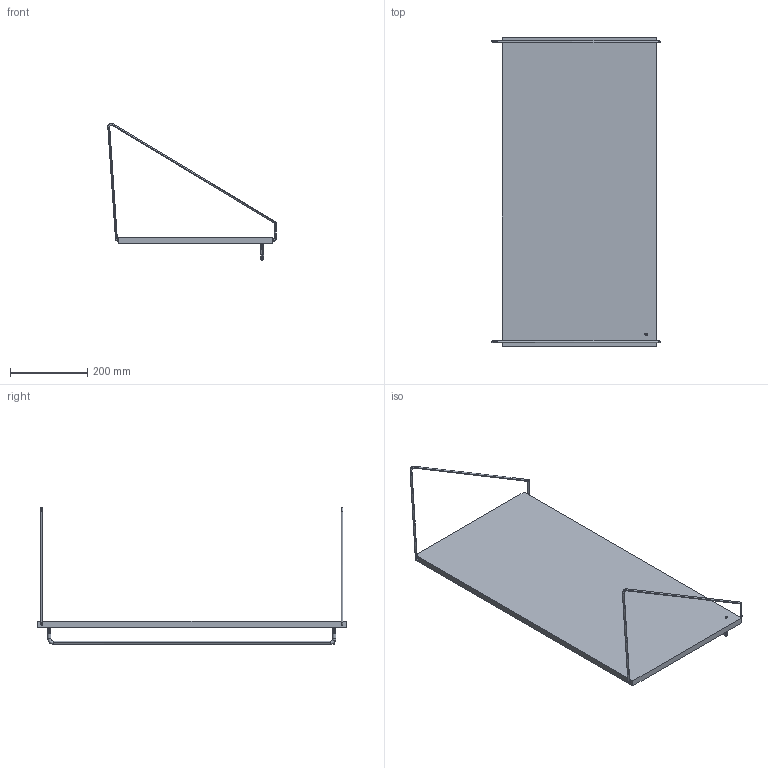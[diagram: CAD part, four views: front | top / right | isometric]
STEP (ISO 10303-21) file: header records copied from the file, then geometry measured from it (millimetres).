
FILE_DESCRIPTION(/* description */ (''),/* implementation_level */ '2;1');
FILE_NAME(/* name */ 'FRAMA_Shlef_Library_Hanger_Shelf_3D_File',/* time_stamp */ '2023-05-25T15:46:28+02:00',/* author */ (''),/* organization */ (''),/* preprocessor_version */ 'ST-DEVELOPER v16.5',/* originating_system */ 'Rhino 7.29',/* authorisation */ '');
FILE_SCHEMA (('CONFIG_CONTROL_DESIGN'));
Length unit declared in the file: millimetre
Products named in the file (4): Document; 40X80 v5; SHELF_LIBRARY_BRACKETS_400 v2; Hanger v2
Assembly tree (4 placements, depth 3):
  Document
    40X80 v5
      SHELF_LIBRARY_BRACKETS_400 v2  x2
      Hanger v2
Bounding box: 437.21 x 800 x 356.11 mm (x, y, z)
Volume: 5193649.3 mm3; surface area: 731830.4 mm2
Topology: 6 solids, 6 shells, 448 faces, 1262 edges, 824 vertices
Faces by surface type: cylinder 336, bspline 80, plane 32
Entity records: 25930 total; most frequent: CARTESIAN_POINT 17686, ORIENTED_EDGE 2408, EDGE_CURVE 1204, B_SPLINE_CURVE_WITH_KNOTS 1046, VERTEX_POINT 792, EDGE_LOOP 434, ADVANCED_FACE 428, FACE_OUTER_BOUND 428
